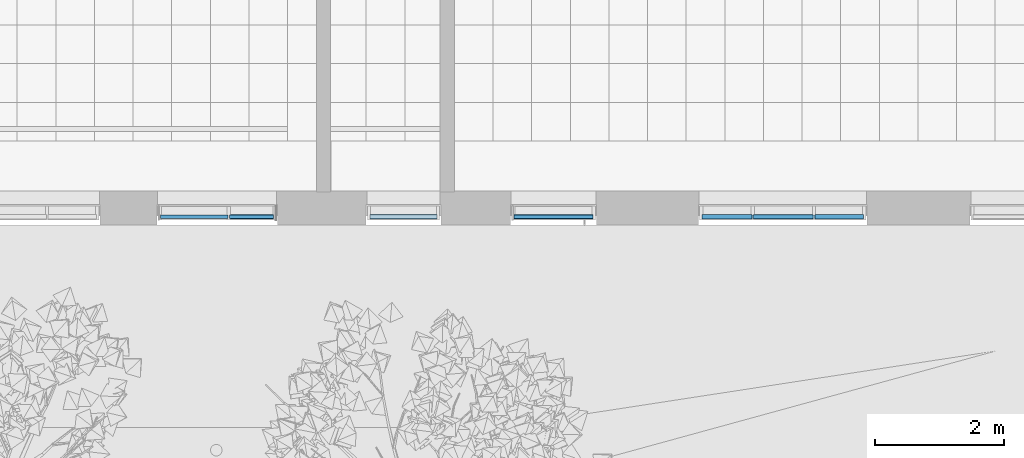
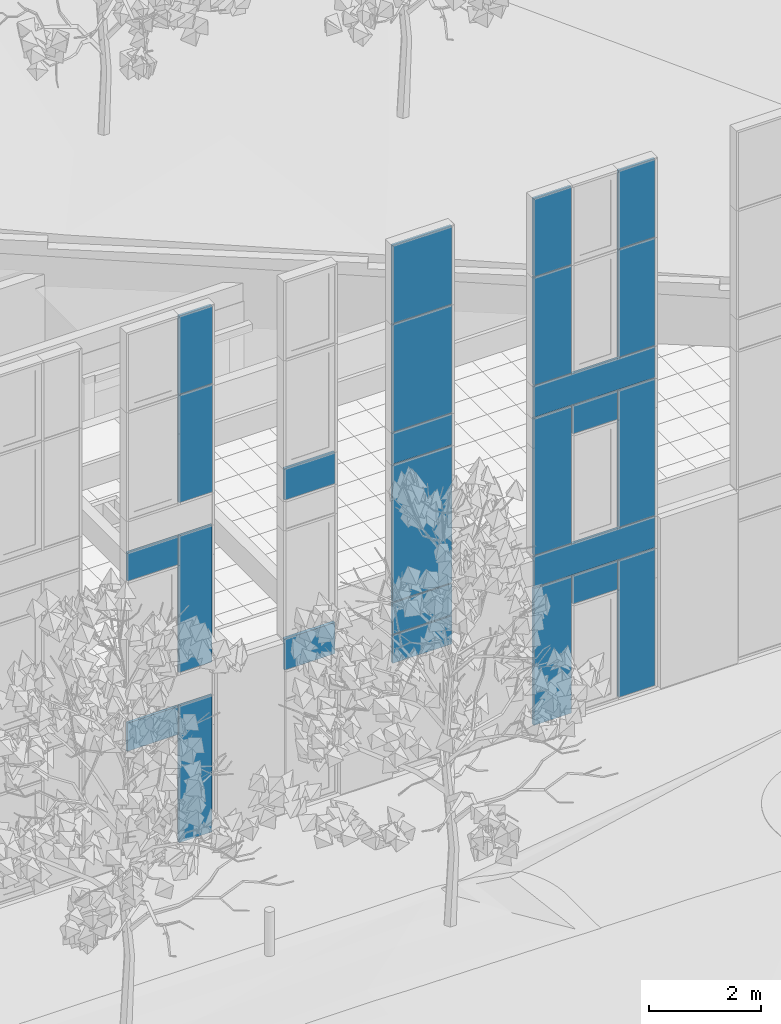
# One storey, part 55 of 246: 26 plates, 4 elements without a shape of their own.
"""IFC2X3 building model written with IfcOpenShell, lengths in millimetres."""

from ifc_helpers import new_model, entity, si_unit, converted_unit, derived_unit, money_unit, direction, frame, origin_with_axes, place, context, subcontext, project, spatial, faceted_brep, source, transform, mapped, material, type_object, element, aggregate, save


model = new_model("IFC2X3")

# Units and contexts
model_context = context("Model", 3, precision=0.01, world=origin_with_axes(), true_north=direction((0.0, 1.0)))
body_context = subcontext(model_context, "Body", "Model", "MODEL_VIEW")
ifc_project = project(units=[si_unit("LENGTHUNIT", "METRE", prefix="MILLI"), si_unit("AREAUNIT", "SQUARE_METRE"), si_unit("VOLUMEUNIT", "CUBIC_METRE"), converted_unit("PLANEANGLEUNIT", "DEGREE", entity("IfcPlaneAngleMeasure", 0.0174532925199), si_unit("PLANEANGLEUNIT", "RADIAN"), dimensions=[0, 0, 0, 0, 0, 0, 0]), si_unit("SOLIDANGLEUNIT", "STERADIAN"), money_unit("EUR"), converted_unit("TIMEUNIT", "Year", entity("IfcTimeMeasure", 31556926.0), si_unit("TIMEUNIT", "SECOND"), dimensions=[0, 0, 1, 0, 0, 0, 0]), si_unit("MASSUNIT", "GRAM", prefix="KILO"), si_unit("THERMODYNAMICTEMPERATUREUNIT", "DEGREE_CELSIUS"), si_unit("LUMINOUSINTENSITYUNIT", "LUMEN"), si_unit("ENERGYUNIT", "JOULE", prefix="MEGA"), derived_unit("THERMALCONDUCTANCEUNIT", [(si_unit("POWERUNIT", "WATT"), 1), (si_unit("LENGTHUNIT", "METRE"), -1), (si_unit("THERMODYNAMICTEMPERATUREUNIT", "KELVIN"), -1)]), derived_unit("SPECIFICHEATCAPACITYUNIT", [(si_unit("ENERGYUNIT", "JOULE"), 1), (si_unit("MASSUNIT", "GRAM", prefix="KILO"), -1), (si_unit("THERMODYNAMICTEMPERATUREUNIT", "KELVIN"), -1)]), derived_unit("MASSDENSITYUNIT", [(si_unit("MASSUNIT", "GRAM", prefix="KILO"), 1), (si_unit("VOLUMEUNIT", "CUBIC_METRE"), -1)])], contexts=[model_context])

# Site, building, storey
site_placement = place(None, origin_with_axes())
site = spatial("IfcSite", under=ifc_project, at=site_placement, Name="L.Koidula tn 11b", CompositionType="ELEMENT")
building_placement = place(site_placement, origin_with_axes())
building = spatial("IfcBuilding", under=site, at=building_placement, Name="Rakvere Riigigümnaasium", CompositionType="ELEMENT")
storey_placement = place(building_placement, origin_with_axes())
storey = spatial("IfcBuildingStorey", under=building, at=storey_placement, Name="1.korrus 0,00", CompositionType="ELEMENT", Elevation=0.0)

# Curtain wall, plates
curtain_wall_type = type_object("IfcCurtainWallType", Name="Curtain Wall Type", PredefinedType="NOTDEFINED")
curtain_wall_1_placement = place(storey_placement, frame((81464.0000846, 5111.45334637, -8.09717250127e-06), z_axis=(0.0, 0.0, 1.0), x_axis=(1.0, 0.0, 0.0)))
curtain_wall_1 = element("IfcCurtainWall", 1, at=curtain_wall_1_placement, inside=storey, type_object=curtain_wall_type, Name="KLF-05-2A")
ifc_material_1 = material(Name="Klaaspakett 3x ribikardinatega")
plate_type_1 = type_object("IfcPlateType", Name="1046 x 616 x 54", PredefinedType="CURTAIN_PANEL")
shared_shape_1 = source(origin_with_axes(), body_context, "Body", "Brep", [
    faceted_brep([(1082.99999844, 627.999994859, -27.0), (36.9999953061, 627.999994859, -27.0), (36.9999953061, 627.999994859, 27.0), (1082.99999844, 627.999994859, 27.0), (1082.99999844, 12.0000015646, -27.0), (36.9999953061, 12.0000015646, -27.0), (36.9999953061, 12.0000015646, 27.0), (1082.99999844, 12.0000015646, 27.0)], [[[0, 1, 2, 3]], [[0, 4, 5, 1]], [[1, 5, 6, 2]], [[3, 2, 6, 7]], [[4, 0, 3, 7]], [[5, 4, 7, 6]]]),
])
plate_1_placement = place(curtain_wall_1_placement, frame((-582.333458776, 0.0, 2720.0), z_axis=(0.0, 0.0, 1.0), x_axis=(-1.0, 0.0, 0.0)))
plate_1 = element("IfcPlate", 2, at=plate_1_placement, type_object=plate_type_1, material=ifc_material_1, Name="KLF-58", ObjectType="CURTAIN_PANEL", context=body_context, shape_type="MappedRepresentation", body=[
    mapped(shared_shape_1, transform((371.666628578, 0.0, -320.0), x_axis=(-1.0, 0.0, 0.0), y_axis=(0.0, 0.0, 1.0), z_axis=(0.0, 1.0, 0.0))),
])
plate_2_placement = place(curtain_wall_1_placement, frame((-582.333458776, 0.0, 6440.0), z_axis=(0.0, 0.0, 1.0), x_axis=(-1.0, 0.0, 0.0)))
plate_2 = element("IfcPlate", 3, at=plate_2_placement, type_object=plate_type_1, material=ifc_material_1, Name="KLF-71", ObjectType="CURTAIN_PANEL", context=body_context, shape_type="MappedRepresentation", body=[
    mapped(shared_shape_1, transform((371.666628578, 0.0, -320.0), x_axis=(-1.0, 0.0, 0.0), y_axis=(0.0, 0.0, 1.0), z_axis=(0.0, 1.0, 0.0))),
])

curtain_wall_2_placement = place(storey_placement, frame((90220.0003282, 5111.43278481, -1.61944594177e-05), z_axis=(0.0, 0.0, 1.0), x_axis=(1.0, 0.0, 0.0)))
curtain_wall_2 = element("IfcCurtainWall", 4, at=curtain_wall_2_placement, inside=storey, type_object=curtain_wall_type, Name="KLF-05-3A")
plate_type_2 = type_object("IfcPlateType", Name="Distinct Panel 926 x 616 x 65", PredefinedType="CURTAIN_PANEL")
shared_shape_2 = source(origin_with_axes(), body_context, "Body", "Brep", [
    faceted_brep([(938.00000149, 628.000002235, -32.5), (11.9999985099, 628.000002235, -32.5), (11.9999985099, 628.000002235, 32.5), (938.00000149, 628.000002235, 32.5), (938.00000149, 11.9999985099, -32.5), (11.9999985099, 11.9999985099, -32.5), (11.9999985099, 11.9999985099, 32.5), (938.00000149, 11.9999985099, 32.5)], [[[0, 1, 2, 3]], [[0, 4, 5, 1]], [[1, 5, 6, 2]], [[3, 2, 6, 7]], [[4, 0, 3, 7]], [[5, 4, 7, 6]]]),
])
plate_3_placement = place(curtain_wall_2_placement, frame((0.0, 0.0, 2720.0), z_axis=(0.0, 0.0, 1.0), x_axis=(-0.999999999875, 1.58166009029e-05, 0.0)))
plate_3 = element("IfcPlate", 5, at=plate_3_placement, type_object=plate_type_2, material=ifc_material_1, Name="KLF-05-3A-Klaasid", ObjectType="CURTAIN_PANEL", context=body_context, shape_type="MappedRepresentation", body=[
    mapped(shared_shape_2, transform((475.0, 0.0, -320.0), x_axis=(-1.0, 0.0, 0.0), y_axis=(0.0, 0.0, 1.0), z_axis=(0.0, 1.0, 0.0))),
])
plate_4_placement = place(curtain_wall_2_placement, frame((0.0, 0.0, 6440.0), z_axis=(0.0, 0.0, 1.0), x_axis=(-0.999999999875, 1.58166009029e-05, 0.0)))
plate_4 = element("IfcPlate", 6, at=plate_4_placement, type_object=plate_type_2, material=ifc_material_1, Name="KLF-05-3A-Klaasid", ObjectType="CURTAIN_PANEL", context=body_context, shape_type="MappedRepresentation", body=[
    mapped(shared_shape_2, transform((475.0, 0.0, -320.0), x_axis=(-1.0, 0.0, 0.0), y_axis=(0.0, 0.0, 1.0), z_axis=(0.0, 1.0, 0.0))),
])
ifc_material_2 = material(Name="Klaaspakett- taustvärvitud klaas 3x")
plate_type_3 = type_object("IfcPlateType", Name="788 x 681 x 54", PredefinedType="CURTAIN_PANEL")
shared_shape_3 = source(origin_with_axes(), body_context, "Body", "Brep", [
    faceted_brep([(2542.99946897, 693.000015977, -27.0), (1775.00001496, 693.000015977, -27.0), (1775.00001496, 693.000015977, 27.0), (2542.99946897, 693.000015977, 27.0), (2542.99946897, 11.9999992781, -27.0), (1775.00001496, 11.9999992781, -27.0), (825.000008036, 11.9999992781, -27.0), (36.9999913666, 11.9999992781, -27.0), (36.9999913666, 693.000015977, -27.0), (825.000008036, 693.000015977, -27.0), (825.000008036, 693.000015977, 27.0), (36.9999913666, 693.000015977, 27.0), (36.9999913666, 11.9999992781, 27.0), (825.000008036, 11.9999992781, 27.0), (1775.00001496, 11.9999992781, 27.0), (2542.99946897, 11.9999992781, 27.0)], [[[0, 1, 2, 3]], [[0, 4, 5, 6, 7, 8, 9, 1]], [[1, 9, 10, 2]], [[3, 2, 10, 11, 12, 13, 14, 15]], [[4, 0, 3, 15]], [[5, 4, 15, 14]], [[6, 5, 14, 13]], [[7, 6, 13, 12]], [[8, 7, 12, 11]], [[9, 8, 11, 10]]]),
])
plate_5_placement = place(curtain_wall_2_placement, frame((-5.00013491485, 7.90851375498e-05, 7112.5), z_axis=(0.0, 0.0, 1.0), x_axis=(-0.999999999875, 1.58166009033e-05, 0.0)))
plate_5 = element("IfcPlate", 7, at=plate_5_placement, type_object=plate_type_3, material=ifc_material_2, Name="KLF-05-3A-Klaasid", ObjectType="CURTAIN_PANEL", context=body_context, shape_type="MappedRepresentation", body=[
    mapped(shared_shape_3, transform((1294.99986508, 0.0, -352.5), x_axis=(-1.0, 0.0, 0.0), y_axis=(0.0, 0.0, 1.0), z_axis=(0.0, 1.0, 0.0))),
])
plate_6_placement = place(curtain_wall_2_placement, frame((-5.00013491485, 7.90851375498e-05, 3392.5), z_axis=(0.0, 0.0, 1.0), x_axis=(-0.999999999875, 1.58166009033e-05, 0.0)))
plate_6 = element("IfcPlate", 8, at=plate_6_placement, type_object=plate_type_3, material=ifc_material_2, Name="KLF-05-3A-Klaasid", ObjectType="CURTAIN_PANEL", context=body_context, shape_type="MappedRepresentation", body=[
    mapped(shared_shape_3, transform((1294.99986508, 0.0, -352.5), x_axis=(-1.0, 0.0, 0.0), y_axis=(0.0, 0.0, 1.0), z_axis=(0.0, 1.0, 0.0))),
])

curtain_wall_3_placement = place(storey_placement, frame((84320.1847914, 5111.45334637, -1.61944635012e-05), z_axis=(0.0, 0.0, 1.0), x_axis=(1.0, 0.0, 0.0)))
curtain_wall_3 = element("IfcCurtainWall", 9, at=curtain_wall_3_placement, inside=storey, type_object=curtain_wall_type, Name="KLF-05-1C")
plate_type_4 = type_object("IfcPlateType", Name="1046 x 681 x 65", PredefinedType="CURTAIN_PANEL")
shared_shape_4 = source(origin_with_axes(), body_context, "Body", "Brep", [
    faceted_brep([(1083.50020101, 692.999994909, -32.5), (37.4999016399, 692.999994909, -32.5), (37.4999016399, 692.999994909, 32.5), (1083.50020101, 692.999994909, 32.5), (1083.50020101, 12.0000057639, -32.5), (37.4999016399, 12.0000057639, -32.5), (37.4999016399, 12.0000057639, 32.5), (1083.50020101, 12.0000057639, 32.5)], [[[0, 1, 2, 3]], [[0, 4, 5, 1]], [[1, 5, 6, 2]], [[3, 2, 6, 7]], [[4, 0, 3, 7]], [[5, 4, 7, 6]]]),
])
plate_7_placement = place(curtain_wall_3_placement, frame((0.0, 0.0, 3392.5), z_axis=(0.0, 0.0, 1.0), x_axis=(-1.0, 0.0, 0.0)))
plate_7 = element("IfcPlate", 10, at=plate_7_placement, type_object=plate_type_4, material=ifc_material_2, Name="KLF-05-1C-Klaasid", ObjectType="CURTAIN_PANEL", context=body_context, shape_type="MappedRepresentation", body=[
    mapped(shared_shape_4, transform((560.500051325, 0.0, -352.5), x_axis=(-1.0, 0.0, 0.0), y_axis=(0.0, 0.0, 1.0), z_axis=(0.0, 1.0, 0.0))),
])
plate_8_placement = place(curtain_wall_3_placement, frame((0.0, 0.0, 7112.5), z_axis=(0.0, 0.0, 1.0), x_axis=(-1.0, 0.0, 0.0)))
plate_8 = element("IfcPlate", 11, at=plate_8_placement, type_object=plate_type_4, material=ifc_material_2, Name="KLF-05-1C-Klaasid", ObjectType="CURTAIN_PANEL", context=body_context, shape_type="MappedRepresentation", body=[
    mapped(shared_shape_4, transform((560.500051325, 0.0, -352.5), x_axis=(-1.0, 0.0, 0.0), y_axis=(0.0, 0.0, 1.0), z_axis=(0.0, 1.0, 0.0))),
])
aggregate(curtain_wall_3, [plate_7, plate_8])

# Plate
ifc_material_3 = material(Name="Klaaspakett 3x")
plate_type_5 = type_object("IfcPlateType", Name="Distinct Panel 686 x 1701 x 65", PredefinedType="CURTAIN_PANEL")
shared_shape_5 = source(origin_with_axes(), body_context, "Body", "Brep", [
    faceted_brep([(698.000349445, 1713.0000343, -32.5), (12.0000099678, 1713.0000343, -32.5), (12.0000099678, 1713.0000343, 32.5), (698.000349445, 1713.0000343, 32.5), (698.000271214, 12.0000099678, -32.5), (12.0000099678, 12.0000099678, -32.5), (12.0000099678, 12.0000099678, 32.5), (698.000271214, 12.0000099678, 32.5)], [[[0, 1, 2, 3]], [[0, 4, 5, 1]], [[1, 5, 6, 2]], [[3, 2, 6, 7]], [[4, 0, 3, 7]], [[5, 4, 7, 6]]]),
])
plate_9_placement = place(curtain_wall_1_placement, frame((508.500066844, 0.0, 10715.0000206), z_axis=(0.0, 0.0, 1.0), x_axis=(-1.0, 0.0, 0.0)))
plate_9 = element("IfcPlate", 12, at=plate_9_placement, type_object=plate_type_5, material=ifc_material_3, Name="KLF-05-6A-Klaasid", ObjectType="CURTAIN_PANEL", context=body_context, shape_type="MappedRepresentation", body=[
    mapped(shared_shape_5, transform((367.500154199, 0.0, -875.000020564), x_axis=(-1.0, 0.0, 0.0), y_axis=(0.0, 0.0, 1.0), z_axis=(0.0, 1.0, 0.0))),
])

plate_type_6 = type_object("IfcPlateType", Name="Distinct Panel 686 x 828 x 65", PredefinedType="CURTAIN_PANEL")
shared_shape_6 = source(origin_with_axes(), body_context, "Body", "Brep", [
    faceted_brep([(698.000243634, 2363.00000149, -32.5), (11.9999985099, 2363.00000149, -32.5), (11.9999985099, 2363.00000149, 32.5), (698.000243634, 2363.00000149, 32.5), (698.000279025, 11.9999985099, -32.5), (11.9999985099, 11.9999985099, -32.5), (11.9999985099, 1534.99999814, -32.5), (11.9999985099, 1534.99999814, 32.5), (11.9999985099, 11.9999985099, 32.5), (698.000279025, 11.9999985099, 32.5)], [[[0, 1, 2, 3]], [[0, 4, 5, 6, 1]], [[1, 6, 7, 2]], [[3, 2, 7, 8, 9]], [[4, 0, 3, 9]], [[5, 4, 9, 8]], [[6, 5, 8, 7]]]),
])
plate_10_placement = place(curtain_wall_1_placement, frame((507.666714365, 0.0, 8512.5), z_axis=(0.0, 0.0, 1.0), x_axis=(-1.0, 0.0, 0.0)))
plate_10 = element("IfcPlate", 13, at=plate_10_placement, type_object=plate_type_6, material=ifc_material_3, Name="KLF-05-2A-Klaasid", ObjectType="CURTAIN_PANEL", context=body_context, shape_type="MappedRepresentation", body=[
    mapped(shared_shape_6, transform((366.666801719, 0.0, -1047.5), x_axis=(-1.0, 0.0, 0.0), y_axis=(0.0, 0.0, 1.0), z_axis=(0.0, 1.0, 0.0))),
])

plate_type_7 = type_object("IfcPlateType", Name="686 x 628 x 54", PredefinedType="CURTAIN_PANEL")
shared_shape_7 = source(origin_with_axes(), body_context, "Body", "Brep", [
    faceted_brep([(698.000286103, 3028.00000715, -27.0), (11.9999928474, 3028.00000715, -27.0), (11.9999928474, 3028.00000715, 27.0), (698.000286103, 3028.00000715, 27.0), (698.000286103, 2400.00001907, -27.0), (698.000286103, 37.0000119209, -27.0), (11.9999928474, 37.0000119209, -27.0), (11.9999928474, 2400.00001907, -27.0), (11.9999928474, 2400.00001907, 27.0), (11.9999928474, 37.0000119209, 27.0), (698.000286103, 37.0000119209, 27.0), (698.000286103, 2400.00001907, 27.0)], [[[0, 1, 2, 3]], [[0, 4, 5, 6, 7, 1]], [[1, 7, 8, 2]], [[3, 2, 8, 9, 10, 11]], [[4, 0, 3, 11]], [[5, 4, 11, 10]], [[6, 5, 10, 9]], [[7, 6, 9, 8]]]),
])
plate_11_placement = place(curtain_wall_1_placement, frame((599.125087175, 0.0, 1740.0), z_axis=(0.0, 0.0, 1.0), x_axis=(-1.0, 0.0, 0.0)))
plate_11 = element("IfcPlate", 14, at=plate_11_placement, type_object=plate_type_7, material=ifc_material_1, Name="KLF-59", ObjectType="CURTAIN_PANEL", context=body_context, shape_type="MappedRepresentation", body=[
    mapped(shared_shape_7, transform((458.125174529, 0.0, -1740.0), x_axis=(-1.0, 0.0, 0.0), y_axis=(0.0, 0.0, 1.0), z_axis=(0.0, 1.0, 0.0))),
])

shared_shape_8 = source(origin_with_axes(), body_context, "Body", "Brep", [
    faceted_brep([(698.000300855, 3002.99998659, -27.0), (12.0000134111, 3002.99998659, -27.0), (12.0000134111, 3002.99998659, 27.0), (698.000300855, 3002.99998659, 27.0), (698.000300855, 2375.00001855, -27.0), (698.000300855, 12.0000134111, -27.0), (12.0000134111, 12.0000134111, -27.0), (12.0000134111, 2375.00001855, -27.0), (12.0000134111, 2375.00001855, 27.0), (12.0000134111, 12.0000134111, 27.0), (698.000300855, 12.0000134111, 27.0), (698.000300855, 2375.00001855, 27.0)], [[[0, 1, 2, 3]], [[0, 4, 5, 6, 7, 1]], [[1, 7, 8, 2]], [[3, 2, 8, 9, 10, 11]], [[4, 0, 3, 11]], [[5, 4, 11, 10]], [[6, 5, 10, 9]], [[7, 6, 9, 8]]]),
])
plate_12_placement = place(curtain_wall_1_placement, frame((599.125087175, 0.0, 5469.375), z_axis=(0.0, 0.0, 1.0), x_axis=(-1.0, 0.0, 0.0)))
plate_12 = element("IfcPlate", 15, at=plate_12_placement, type_object=plate_type_7, material=ifc_material_1, Name="KLF-63", ObjectType="CURTAIN_PANEL", context=body_context, shape_type="MappedRepresentation", body=[
    mapped(shared_shape_8, transform((458.125174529, 0.0, -1724.375), x_axis=(-1.0, 0.0, 0.0), y_axis=(0.0, 0.0, 1.0), z_axis=(0.0, 1.0, 0.0))),
])

aggregate(curtain_wall_1, [plate_9, plate_1, plate_10, plate_11, plate_2, plate_12])

plate_type_8 = type_object("IfcPlateType", Name="Distinct Panel 776 x 2351 x 65", PredefinedType="CURTAIN_PANEL")
shared_shape_9 = source(origin_with_axes(), body_context, "Body", "Brep", [
    faceted_brep([(813.000005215, 2363.00000149, -32.5), (36.9999836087, 2363.00000149, -32.5), (36.9999836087, 2363.00000149, 32.5), (813.000005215, 2363.00000149, 32.5), (813.000005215, 11.9999985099, -32.5), (36.9999836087, 11.9999985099, -32.5), (36.9999836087, 11.9999985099, 32.5), (813.000005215, 11.9999985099, 32.5)], [[[0, 1, 2, 3]], [[0, 4, 5, 1]], [[1, 5, 6, 2]], [[3, 2, 6, 7]], [[4, 0, 3, 7]], [[5, 4, 7, 6]]]),
])
plate_13_placement = place(curtain_wall_2_placement, frame((-887.499999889, 0.0140372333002, 8652.5), z_axis=(0.0, 0.0, 1.0), x_axis=(-0.999999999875, 1.58166009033e-05, 0.0)))
plate_13 = element("IfcPlate", 16, at=plate_13_placement, type_object=plate_type_8, material=ifc_material_1, Name="KLF-05-3A-Klaasid", ObjectType="CURTAIN_PANEL", context=body_context, shape_type="MappedRepresentation", body=[
    mapped(shared_shape_9, transform((412.5, 0.0, -1187.5), x_axis=(-1.0, 0.0, 0.0), y_axis=(0.0, 0.0, 1.0), z_axis=(0.0, 1.0, 0.0))),
])

plate_type_9 = type_object("IfcPlateType", Name="Distinct Panel 776 x 628 x 65", PredefinedType="CURTAIN_PANEL")
shared_shape_10 = source(origin_with_axes(), body_context, "Body", "Brep", [
    faceted_brep([(813.000010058, 3002.99998659, -32.5), (36.999981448, 3002.99998659, -32.5), (36.999981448, 3002.99998659, 32.5), (813.000010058, 3002.99998659, 32.5), (813.000010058, 2375.00001855, -32.5), (813.000010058, 12.0000134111, -32.5), (36.999981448, 12.0000134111, -32.5), (36.999981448, 2375.00001855, -32.5), (36.999981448, 2375.00001855, 32.5), (36.999981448, 12.0000134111, 32.5), (813.000010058, 12.0000134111, 32.5), (813.000010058, 2375.00001855, 32.5)], [[[0, 1, 2, 3]], [[0, 4, 5, 6, 7, 1]], [[1, 7, 8, 2]], [[3, 2, 8, 9, 10, 11]], [[4, 0, 3, 11]], [[5, 4, 11, 10]], [[6, 5, 10, 9]], [[7, 6, 9, 8]]]),
])
plate_14_placement = place(curtain_wall_2_placement, frame((-887.499999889, 0.0140372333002, 5541.66666667), z_axis=(0.0, 0.0, 1.0), x_axis=(-0.999999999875, 1.58166009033e-05, 0.0)))
plate_14 = element("IfcPlate", 17, at=plate_14_placement, type_object=plate_type_9, material=ifc_material_1, Name="KLF-05-3A-Klaasid", ObjectType="CURTAIN_PANEL", context=body_context, shape_type="MappedRepresentation", body=[
    mapped(shared_shape_10, transform((412.5, 0.0, -1796.66666667), x_axis=(-1.0, 0.0, 0.0), y_axis=(0.0, 0.0, 1.0), z_axis=(0.0, 1.0, 0.0))),
])

plate_type_10 = type_object("IfcPlateType", Name="Distinct Panel 756 x 628 x 65", PredefinedType="CURTAIN_PANEL")
shared_shape_11 = source(origin_with_axes(), body_context, "Body", "Brep", [
    faceted_brep([(767.999465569, 3002.99998659, -32.5), (12.0000134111, 3002.99998659, -32.5), (12.0000134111, 3002.99998659, 32.5), (767.999465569, 3002.99998659, 32.5), (767.999465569, 2375.00001855, -32.5), (767.999465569, 12.0000134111, -32.5), (12.0000134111, 12.0000134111, -32.5), (12.0000134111, 2375.00001855, -32.5), (12.0000134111, 2375.00001855, 32.5), (12.0000134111, 12.0000134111, 32.5), (767.999465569, 12.0000134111, 32.5), (767.999465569, 2375.00001855, 32.5)], [[[0, 1, 2, 3]], [[0, 4, 5, 6, 7, 1]], [[1, 7, 8, 2]], [[3, 2, 8, 9, 10, 11]], [[4, 0, 3, 11]], [[5, 4, 11, 10]], [[6, 5, 10, 9]], [[7, 6, 9, 8]]]),
])
plate_15_placement = place(curtain_wall_2_placement, frame((877.499730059, -0.013879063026, 5541.66666667), z_axis=(0.0, 0.0, 1.0), x_axis=(-0.999999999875, 1.58166009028e-05, 0.0)))
plate_15 = element("IfcPlate", 18, at=plate_15_placement, type_object=plate_type_10, material=ifc_material_1, Name="KLF-05-3A-Klaasid", ObjectType="CURTAIN_PANEL", context=body_context, shape_type="MappedRepresentation", body=[
    mapped(shared_shape_11, transform((402.499730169, 0.0, -1796.66666667), x_axis=(-1.0, 0.0, 0.0), y_axis=(0.0, 0.0, 1.0), z_axis=(0.0, 1.0, 0.0))),
])

shared_shape_12 = source(origin_with_axes(), body_context, "Body", "Brep", [
    faceted_brep([(813.000002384, 3028.00000715, -32.5), (37.0000119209, 3028.00000715, -32.5), (37.0000119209, 3028.00000715, 32.5), (813.000002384, 3028.00000715, 32.5), (813.000002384, 2400.00001907, -32.5), (813.000002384, 37.0000119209, -32.5), (37.0000119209, 37.0000119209, -32.5), (37.0000119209, 2400.00001907, -32.5), (37.0000119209, 2400.00001907, 32.5), (37.0000119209, 37.0000119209, 32.5), (813.000002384, 37.0000119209, 32.5), (813.000002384, 2400.00001907, 32.5)], [[[0, 1, 2, 3]], [[0, 4, 5, 6, 7, 1]], [[1, 7, 8, 2]], [[3, 2, 8, 9, 10, 11]], [[4, 0, 3, 11]], [[5, 4, 11, 10]], [[6, 5, 10, 9]], [[7, 6, 9, 8]]]),
])
plate_16_placement = place(curtain_wall_2_placement, frame((-887.499999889, 0.0140372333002, 1813.33333333), z_axis=(0.0, 0.0, 1.0), x_axis=(-0.999999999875, 1.58166009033e-05, 0.0)))
plate_16 = element("IfcPlate", 19, at=plate_16_placement, type_object=plate_type_9, material=ifc_material_1, Name="KLF-05-3A-Klaasid", ObjectType="CURTAIN_PANEL", context=body_context, shape_type="MappedRepresentation", body=[
    mapped(shared_shape_12, transform((412.5, 0.0, -1813.33333333), x_axis=(-1.0, 0.0, 0.0), y_axis=(0.0, 0.0, 1.0), z_axis=(0.0, 1.0, 0.0))),
])

shared_shape_13 = source(origin_with_axes(), body_context, "Body", "Brep", [
    faceted_brep([(767.999451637, 3028.00000715, -32.5), (11.9999928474, 3028.00000715, -32.5), (11.9999928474, 3028.00000715, 32.5), (767.999451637, 3028.00000715, 32.5), (767.999451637, 2400.00001907, -32.5), (767.999451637, 37.0000119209, -32.5), (11.9999928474, 37.0000119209, -32.5), (11.9999928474, 2400.00001907, -32.5), (11.9999928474, 2400.00001907, 32.5), (11.9999928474, 37.0000119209, 32.5), (767.999451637, 37.0000119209, 32.5), (767.999451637, 2400.00001907, 32.5)], [[[0, 1, 2, 3]], [[0, 4, 5, 6, 7, 1]], [[1, 7, 8, 2]], [[3, 2, 8, 9, 10, 11]], [[4, 0, 3, 11]], [[5, 4, 11, 10]], [[6, 5, 10, 9]], [[7, 6, 9, 8]]]),
])
plate_17_placement = place(curtain_wall_2_placement, frame((877.499730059, -0.013879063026, 1813.33333333), z_axis=(0.0, 0.0, 1.0), x_axis=(-0.999999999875, 1.58166009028e-05, 0.0)))
plate_17 = element("IfcPlate", 20, at=plate_17_placement, type_object=plate_type_10, material=ifc_material_1, Name="KLF-05-3A-Klaasid", ObjectType="CURTAIN_PANEL", context=body_context, shape_type="MappedRepresentation", body=[
    mapped(shared_shape_13, transform((402.499730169, 0.0, -1813.33333333), x_axis=(-1.0, 0.0, 0.0), y_axis=(0.0, 0.0, 1.0), z_axis=(0.0, 1.0, 0.0))),
])

plate_type_11 = type_object("IfcPlateType", Name="Distinct Panel 756 x 2351 x 65", PredefinedType="CURTAIN_PANEL")
shared_shape_14 = source(origin_with_axes(), body_context, "Body", "Brep", [
    faceted_brep([(767.999479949, 2363.00000149, -32.5), (11.9999985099, 2363.00000149, -32.5), (11.9999985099, 2363.00000149, 32.5), (767.999479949, 2363.00000149, 32.5), (767.999444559, 11.9999985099, -32.5), (11.9999985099, 11.9999985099, -32.5), (11.9999985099, 11.9999985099, 32.5), (767.999444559, 11.9999985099, 32.5)], [[[0, 1, 2, 3]], [[0, 4, 5, 1]], [[1, 5, 6, 2]], [[3, 2, 6, 7]], [[4, 0, 3, 7]], [[5, 4, 7, 6]]]),
])
plate_18_placement = place(curtain_wall_2_placement, frame((877.499731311, -0.0138790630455, 8652.5), z_axis=(0.0, 0.0, 1.0), x_axis=(-0.999999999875, 1.58166009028e-05, 0.0)))
plate_18 = element("IfcPlate", 21, at=plate_18_placement, type_object=plate_type_11, material=ifc_material_1, Name="KLF-05-4A-Klaasid", ObjectType="CURTAIN_PANEL", context=body_context, shape_type="MappedRepresentation", body=[
    mapped(shared_shape_14, transform((402.499731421, 0.0, -1187.5), x_axis=(-1.0, 0.0, 0.0), y_axis=(0.0, 0.0, 1.0), z_axis=(0.0, 1.0, 0.0))),
])

plate_type_12 = type_object("IfcPlateType", Name="Distinct Panel 756 x 1701 x 65", PredefinedType="CURTAIN_PANEL")
shared_shape_15 = source(origin_with_axes(), body_context, "Body", "Brep", [
    faceted_brep([(767.999542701, 1713.0000343, -32.5), (12.0000099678, 1713.0000343, -32.5), (12.0000099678, 1713.0000343, 32.5), (767.999542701, 1713.0000343, 32.5), (767.99946447, 12.0000099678, -32.5), (12.0000099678, 12.0000099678, -32.5), (12.0000099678, 12.0000099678, 32.5), (767.99946447, 12.0000099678, 32.5)], [[[0, 1, 2, 3]], [[0, 4, 5, 1]], [[1, 5, 6, 2]], [[3, 2, 6, 7]], [[4, 0, 3, 7]], [[5, 4, 7, 6]]]),
])
plate_19_placement = place(curtain_wall_2_placement, frame((877.499749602, -0.0138790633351, 10715.0000206), z_axis=(0.0, 0.0, 1.0), x_axis=(-0.999999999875, 1.58166009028e-05, 0.0)))
plate_19 = element("IfcPlate", 22, at=plate_19_placement, type_object=plate_type_12, material=ifc_material_1, Name="KLF-05-8A-Klaasid", ObjectType="CURTAIN_PANEL", context=body_context, shape_type="MappedRepresentation", body=[
    mapped(shared_shape_15, transform((402.499749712, 0.0, -875.000020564), x_axis=(-1.0, 0.0, 0.0), y_axis=(0.0, 0.0, 1.0), z_axis=(0.0, 1.0, 0.0))),
])

plate_type_13 = type_object("IfcPlateType", Name="Distinct Panel 776 x 1701 x 65", PredefinedType="CURTAIN_PANEL")
shared_shape_16 = source(origin_with_axes(), body_context, "Body", "Brep", [
    faceted_brep([(812.999990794, 1713.0000343, -32.5), (37.00000683, 1713.0000343, -32.5), (37.00000683, 1713.0000343, 32.5), (812.999990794, 1713.0000343, 32.5), (812.999990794, 12.0000099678, -32.5), (37.00000683, 12.0000099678, -32.5), (37.00000683, 12.0000099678, 32.5), (812.999990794, 12.0000099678, 32.5)], [[[0, 1, 2, 3]], [[0, 4, 5, 1]], [[1, 5, 6, 2]], [[3, 2, 6, 7]], [[4, 0, 3, 7]], [[5, 4, 7, 6]]]),
])
plate_20_placement = place(curtain_wall_2_placement, frame((-887.499999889, 0.0140372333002, 10715.0000206), z_axis=(0.0, 0.0, 1.0), x_axis=(-0.999999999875, 1.58166009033e-05, 0.0)))
plate_20 = element("IfcPlate", 23, at=plate_20_placement, type_object=plate_type_13, material=ifc_material_1, Name="KLF-05-0A-Klaasid", ObjectType="CURTAIN_PANEL", context=body_context, shape_type="MappedRepresentation", body=[
    mapped(shared_shape_16, transform((412.5, 0.0, -875.000020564), x_axis=(-1.0, 0.0, 0.0), y_axis=(0.0, 0.0, 1.0), z_axis=(0.0, 1.0, 0.0))),
])

aggregate(curtain_wall_2, [plate_3, plate_5, plate_4, plate_6, plate_13, plate_14, plate_15, plate_16, plate_17, plate_18, plate_19, plate_20])

# Curtain wall, plates
curtain_wall_4_placement = place(storey_placement, frame((86440.3647921, 5111.45334637, -1.61944652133e-05), z_axis=(0.0, 0.0, 1.0), x_axis=(1.0, 0.0, 0.0)))
curtain_wall_4 = element("IfcCurtainWall", 24, at=curtain_wall_4_placement, inside=storey, type_object=curtain_wall_type, Name="KLF-05-1A")
plate_type_14 = type_object("IfcPlateType", Name="1226 x 616 x 54", PredefinedType="CURTAIN_PANEL")
shared_shape_17 = source(origin_with_axes(), body_context, "Body", "Brep", [
    faceted_brep([(1263.22148635, 627.99999204, -27.0), (36.9999934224, 627.99999204, -27.0), (36.9999934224, 627.99999204, 27.0), (1263.22148635, 627.99999204, 27.0), (1263.22148635, 11.9999936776, -27.0), (36.9999934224, 11.9999936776, -27.0), (36.9999934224, 11.9999936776, 27.0), (1263.22148635, 11.9999936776, 27.0)], [[[0, 1, 2, 3]], [[0, 4, 5, 1]], [[1, 5, 6, 2]], [[3, 2, 6, 7]], [[4, 0, 3, 7]], [[5, 4, 7, 6]]]),
])
plate_21_placement = place(curtain_wall_4_placement, frame((0.0, 0.0, 2720.0), z_axis=(0.0, 0.0, 1.0), x_axis=(-1.0, 0.0, 0.0)))
plate_21 = element("IfcPlate", 25, at=plate_21_placement, type_object=plate_type_14, material=ifc_material_1, Name="KLF-01-1A-klaasid", ObjectType="CURTAIN_PANEL", context=body_context, shape_type="MappedRepresentation", body=[
    mapped(shared_shape_17, transform((440.585924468, 0.0, -320.0), x_axis=(-1.0, 0.0, 0.0), y_axis=(0.0, 0.0, 1.0), z_axis=(0.0, 1.0, 0.0))),
])
plate_type_15 = type_object("IfcPlateType", Name="1226 x 681 x 54", PredefinedType="CURTAIN_PANEL")
shared_shape_18 = source(origin_with_axes(), body_context, "Body", "Brep", [
    faceted_brep([(1263.22148635, 693.000003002, -27.0), (36.9999934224, 693.000003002, -27.0), (36.9999934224, 693.000003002, 27.0), (1263.22148635, 693.000003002, 27.0), (1263.22148635, 11.9999936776, -27.0), (36.9999934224, 11.9999936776, -27.0), (36.9999934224, 11.9999936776, 27.0), (1263.22148635, 11.9999936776, 27.0)], [[[0, 1, 2, 3]], [[0, 4, 5, 1]], [[1, 5, 6, 2]], [[3, 2, 6, 7]], [[4, 0, 3, 7]], [[5, 4, 7, 6]]]),
])
plate_22_placement = place(curtain_wall_4_placement, frame((0.0, 0.0, 3392.5), z_axis=(0.0, 0.0, 1.0), x_axis=(-1.0, 0.0, 0.0)))
plate_22 = element("IfcPlate", 26, at=plate_22_placement, type_object=plate_type_15, material=ifc_material_2, Name="KLF-01-1A-klaasid", ObjectType="CURTAIN_PANEL", context=body_context, shape_type="MappedRepresentation", body=[
    mapped(shared_shape_18, transform((440.585924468, 0.0, -352.5), x_axis=(-1.0, 0.0, 0.0), y_axis=(0.0, 0.0, 1.0), z_axis=(0.0, 1.0, 0.0))),
])
plate_type_16 = type_object("IfcPlateType", Name="1226 x 628 x 54", PredefinedType="CURTAIN_PANEL")
shared_shape_19 = source(origin_with_axes(), body_context, "Body", "Brep", [
    faceted_brep([(1263.22146417, 3002.99998659, -27.0), (36.999981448, 3002.99998659, -27.0), (36.999981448, 3002.99998659, 27.0), (1263.22146417, 3002.99998659, 27.0), (1263.22146417, 2375.00001855, -27.0), (1263.22146417, 12.0000134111, -27.0), (36.999981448, 12.0000134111, -27.0), (36.999981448, 2375.00001855, -27.0), (36.999981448, 2375.00001855, 27.0), (36.999981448, 12.0000134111, 27.0), (1263.22146417, 12.0000134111, 27.0), (1263.22146417, 2375.00001855, 27.0)], [[[0, 1, 2, 3]], [[0, 4, 5, 6, 7, 1]], [[1, 7, 8, 2]], [[3, 2, 8, 9, 10, 11]], [[4, 0, 3, 11]], [[5, 4, 11, 10]], [[6, 5, 10, 9]], [[7, 6, 9, 8]]]),
])
plate_23_placement = place(curtain_wall_4_placement, frame((119.728465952, 0.0, 5285.0), z_axis=(0.0, 0.0, 1.0), x_axis=(-1.0, 0.0, 0.0)))
plate_23 = element("IfcPlate", 27, at=plate_23_placement, type_object=plate_type_16, material=ifc_material_1, Name="KLF-01-1A-klaasid", ObjectType="CURTAIN_PANEL", context=body_context, shape_type="MappedRepresentation", body=[
    mapped(shared_shape_19, transform((560.31439042, 0.0, -1540.0), x_axis=(-1.0, 0.0, 0.0), y_axis=(0.0, 0.0, 1.0), z_axis=(0.0, 1.0, 0.0))),
])
shared_shape_20 = source(origin_with_axes(), body_context, "Body", "Brep", [
    faceted_brep([(1263.22153343, 693.000009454, -27.0), (36.9999948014, 693.000009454, -27.0), (36.9999948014, 693.000009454, 27.0), (1263.22153343, 693.000009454, 27.0), (1263.2214753, 11.9999941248, -27.0), (36.9999948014, 11.9999941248, -27.0), (36.9999948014, 11.9999941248, 27.0), (1263.2214753, 11.9999941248, 27.0)], [[[0, 1, 2, 3]], [[0, 4, 5, 1]], [[1, 5, 6, 2]], [[3, 2, 6, 7]], [[4, 0, 3, 7]], [[5, 4, 7, 6]]]),
])
plate_24_placement = place(curtain_wall_4_placement, frame((209.524827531, 0.0, 7112.5), z_axis=(0.0, 0.0, 1.0), x_axis=(-1.0, 0.0, 0.0)))
plate_24 = element("IfcPlate", 28, at=plate_24_placement, type_object=plate_type_15, material=ifc_material_2, Name="KLF-05-0A-Klaasid", ObjectType="CURTAIN_PANEL", context=body_context, shape_type="MappedRepresentation", body=[
    mapped(shared_shape_20, transform((650.110751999, 0.0, -352.5), x_axis=(-1.0, 0.0, 0.0), y_axis=(0.0, 0.0, 1.0), z_axis=(0.0, 1.0, 0.0))),
])
plate_type_17 = type_object("IfcPlateType", Name="Distinct Panel 1226 x 2351 x 65", PredefinedType="CURTAIN_PANEL")
shared_shape_21 = source(origin_with_axes(), body_context, "Body", "Brep", [
    faceted_brep([(1263.22159873, 2363.00000149, -32.5), (36.9999836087, 2363.00000149, -32.5), (36.9999836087, 2363.00000149, 32.5), (1263.22159873, 2363.00000149, 32.5), (1263.22152795, 11.9999985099, -32.5), (36.9999836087, 11.9999985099, -32.5), (36.9999836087, 11.9999985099, 32.5), (1263.22152795, 11.9999985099, 32.5)], [[[0, 1, 2, 3]], [[0, 4, 5, 1]], [[1, 5, 6, 2]], [[3, 2, 6, 7]], [[4, 0, 3, 7]], [[5, 4, 7, 6]]]),
])
plate_25_placement = place(curtain_wall_4_placement, frame((209.524858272, 0.0, 8652.5), z_axis=(0.0, 0.0, 1.0), x_axis=(-1.0, 0.0, 0.0)))
plate_25 = element("IfcPlate", 29, at=plate_25_placement, type_object=plate_type_17, material=ifc_material_3, Name="KLF-05-9A-Klaasid", ObjectType="CURTAIN_PANEL", context=body_context, shape_type="MappedRepresentation", body=[
    mapped(shared_shape_21, transform((650.11078274, 0.0, -1187.5), x_axis=(-1.0, 0.0, 0.0), y_axis=(0.0, 0.0, 1.0), z_axis=(0.0, 1.0, 0.0))),
])
plate_type_18 = type_object("IfcPlateType", Name="Distinct Panel 1226 x 1701 x 65", PredefinedType="CURTAIN_PANEL")
shared_shape_22 = source(origin_with_axes(), body_context, "Body", "Brep", [
    faceted_brep([(1263.22161538, 1713.0000343, -32.5), (37.00000683, 1713.0000343, -32.5), (37.00000683, 1713.0000343, 32.5), (1263.22161538, 1713.0000343, 32.5), (1263.22161538, 12.0000099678, -32.5), (37.00000683, 12.0000099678, -32.5), (37.00000683, 12.0000099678, 32.5), (1263.22161538, 12.0000099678, 32.5)], [[[0, 1, 2, 3]], [[0, 4, 5, 1]], [[1, 5, 6, 2]], [[3, 2, 6, 7]], [[4, 0, 3, 7]], [[5, 4, 7, 6]]]),
])
plate_26_placement = place(curtain_wall_4_placement, frame((209.524876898, 0.0, 10715.0000206), z_axis=(0.0, 0.0, 1.0), x_axis=(-1.0, 0.0, 0.0)))
plate_26 = element("IfcPlate", 30, at=plate_26_placement, type_object=plate_type_18, material=ifc_material_3, Name="KLF-05-9A-Klaasid", ObjectType="CURTAIN_PANEL", context=body_context, shape_type="MappedRepresentation", body=[
    mapped(shared_shape_22, transform((650.110801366, 0.0, -875.000020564), x_axis=(-1.0, 0.0, 0.0), y_axis=(0.0, 0.0, 1.0), z_axis=(0.0, 1.0, 0.0))),
])
aggregate(curtain_wall_4, [plate_21, plate_22, plate_23, plate_24, plate_25, plate_26])

save(model, "model.ifc")
